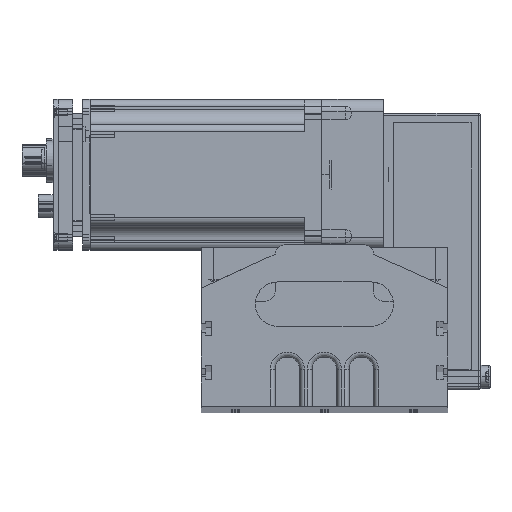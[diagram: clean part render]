
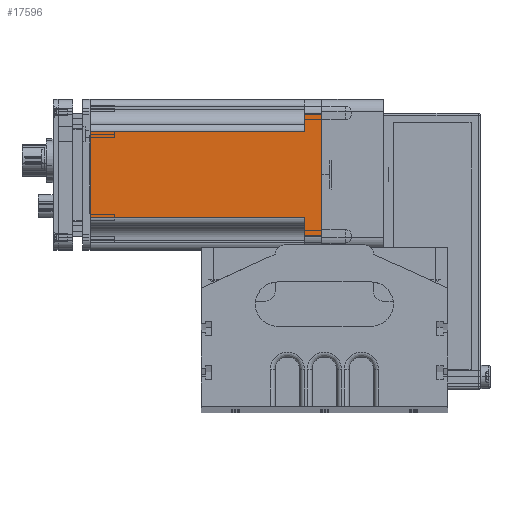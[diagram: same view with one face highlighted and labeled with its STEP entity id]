
A CAD part, top view. The second image highlights one B-rep face of the part: STEP entity #17596.
In plain terms, the highlighted planar face has unit normal (0, 0, 1).
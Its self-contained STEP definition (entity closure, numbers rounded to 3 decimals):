
#14194 = EDGE_LOOP ( 'NONE', ( #17593, #17594, #17562, #17591, #17560, #17576, #41323, #17538 ) ) ;
#16355 = CARTESIAN_POINT ( 'NONE',  ( 17.5, 94., 30.5 ) ) ;
#17076 = VERTEX_POINT ( 'NONE', #33726 ) ;
#17078 = EDGE_CURVE ( 'NONE', #17076, #17081, #33724, .T. ) ;
#17081 = VERTEX_POINT ( 'NONE', #33716 ) ;
#17191 = VERTEX_POINT ( 'NONE', #33798 ) ;
#17205 = EDGE_CURVE ( 'NONE', #17191, #17076, #33830, .T. ) ;
#17463 = VERTEX_POINT ( 'NONE', #34076 ) ;
#17464 = VERTEX_POINT ( 'NONE', #34073 ) ;
#17536 = EDGE_CURVE ( 'NONE', #17464, #41300, #34193, .T. ) ;
#17538 = ORIENTED_EDGE ( 'NONE', *, *, #17536, .F. ) ;
#17560 = ORIENTED_EDGE ( 'NONE', *, *, #17566, .F. ) ;
#17562 = ORIENTED_EDGE ( 'NONE', *, *, #17205, .F. ) ;
#17564 = VERTEX_POINT ( 'NONE', #34181 ) ;
#17566 = EDGE_CURVE ( 'NONE', #17463, #17564, #34167, .T. ) ;
#17568 = VERTEX_POINT ( 'NONE', #34165 ) ;
#17570 = EDGE_CURVE ( 'NONE', #17568, #17463, #34170, .T. ) ;
#17576 = ORIENTED_EDGE ( 'NONE', *, *, #17570, .F. ) ;
#17578 = EDGE_CURVE ( 'NONE', #41300, #17568, #34223, .T. ) ;
#17586 = EDGE_CURVE ( 'NONE', #17081, #17464, #34218, .T. ) ;
#17587 = EDGE_CURVE ( 'NONE', #17191, #17564, #34216, .T. ) ;
#17591 = ORIENTED_EDGE ( 'NONE', *, *, #17587, .T. ) ;
#17593 = ORIENTED_EDGE ( 'NONE', *, *, #17586, .F. ) ;
#17594 = ORIENTED_EDGE ( 'NONE', *, *, #17078, .F. ) ;
#17596 = ADVANCED_FACE ( 'NONE', ( #34268 ), #34266, .F. ) ;
#32620 = DIRECTION ( 'NONE',  ( 1., 0., 0. ) ) ;
#33715 = VECTOR ( 'NONE', #33728, 1000. ) ;
#33716 = CARTESIAN_POINT ( 'NONE',  ( -17.5, 7., 30.5 ) ) ;
#33724 = LINE ( 'NONE', #33729, #33715 ) ;
#33726 = CARTESIAN_POINT ( 'NONE',  ( -24.5, 7., 30.5 ) ) ;
#33728 = DIRECTION ( 'NONE',  ( 1., 0., 0. ) ) ;
#33729 = CARTESIAN_POINT ( 'NONE',  ( -24.5, 7., 30.5 ) ) ;
#33798 = CARTESIAN_POINT ( 'NONE',  ( -24.5, 0., 30.5 ) ) ;
#33828 = VECTOR ( 'NONE', #33890, 1000. ) ;
#33829 = CARTESIAN_POINT ( 'NONE',  ( -24.5, 7., 30.5 ) ) ;
#33830 = LINE ( 'NONE', #33829, #33828 ) ;
#33890 = DIRECTION ( 'NONE',  ( 0., 1., 0. ) ) ;
#34073 = CARTESIAN_POINT ( 'NONE',  ( -17.5, 94., 30.5 ) ) ;
#34076 = CARTESIAN_POINT ( 'NONE',  ( 24.5, 7., 30.5 ) ) ;
#34162 = DIRECTION ( 'NONE',  ( 0., -1., 0. ) ) ;
#34163 = VECTOR ( 'NONE', #34162, 1000. ) ;
#34165 = CARTESIAN_POINT ( 'NONE',  ( 17.5, 7., 30.5 ) ) ;
#34166 = CARTESIAN_POINT ( 'NONE',  ( 24.5, 7., 30.5 ) ) ;
#34167 = LINE ( 'NONE', #34166, #34163 ) ;
#34169 = CARTESIAN_POINT ( 'NONE',  ( -24.5, 7., 30.5 ) ) ;
#34170 = LINE ( 'NONE', #34169, #34234 ) ;
#34181 = CARTESIAN_POINT ( 'NONE',  ( 24.5, 0., 30.5 ) ) ;
#34183 = DIRECTION ( 'NONE',  ( 1., 0., 0. ) ) ;
#34186 = VECTOR ( 'NONE', #34183, 1000. ) ;
#34187 = CARTESIAN_POINT ( 'NONE',  ( 26.5, 94., 30.5 ) ) ;
#34193 = LINE ( 'NONE', #34187, #34186 ) ;
#34196 = VECTOR ( 'NONE', #32620, 1000. ) ;
#34197 = CARTESIAN_POINT ( 'NONE',  ( -24.5, 0., 30.5 ) ) ;
#34201 = DIRECTION ( 'NONE',  ( 0., 1., 0. ) ) ;
#34202 = VECTOR ( 'NONE', #34201, 1000. ) ;
#34214 = CARTESIAN_POINT ( 'NONE',  ( -17.5, 7., 30.5 ) ) ;
#34216 = LINE ( 'NONE', #34197, #34196 ) ;
#34218 = LINE ( 'NONE', #34214, #34202 ) ;
#34220 = DIRECTION ( 'NONE',  ( 0., -1., 0. ) ) ;
#34221 = VECTOR ( 'NONE', #34220, 1000. ) ;
#34222 = CARTESIAN_POINT ( 'NONE',  ( 17.5, 95.35, 30.5 ) ) ;
#34223 = LINE ( 'NONE', #34222, #34221 ) ;
#34233 = DIRECTION ( 'NONE',  ( 1., 0., 0. ) ) ;
#34234 = VECTOR ( 'NONE', #34233, 1000. ) ;
#34252 = DIRECTION ( 'NONE',  ( -1., 0., 0. ) ) ;
#34253 = DIRECTION ( 'NONE',  ( 0., 0., -1. ) ) ;
#34265 = AXIS2_PLACEMENT_3D ( 'NONE', #34267, #34253, #34252 ) ;
#34266 = PLANE ( 'NONE',  #34265 ) ;
#34267 = CARTESIAN_POINT ( 'NONE',  ( -24.5, 7., 30.5 ) ) ;
#34268 = FACE_OUTER_BOUND ( 'NONE', #14194, .T. ) ;
#41300 = VERTEX_POINT ( 'NONE', #16355 ) ;
#41323 = ORIENTED_EDGE ( 'NONE', *, *, #17578, .F. ) ;
